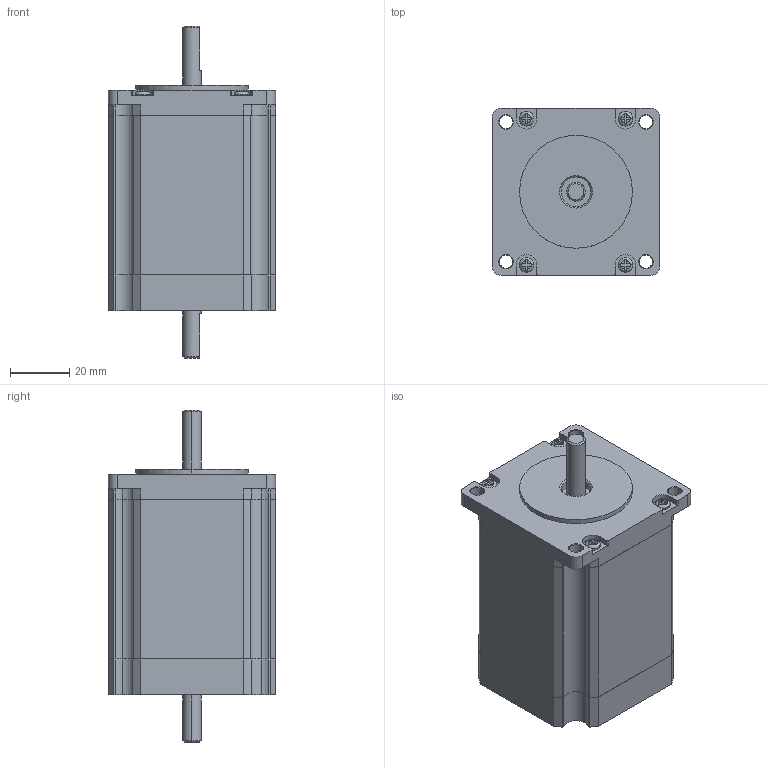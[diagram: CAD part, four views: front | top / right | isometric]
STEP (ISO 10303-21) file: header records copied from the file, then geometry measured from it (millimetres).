
FILE_DESCRIPTION (( 'STEP AP214' ), '1' );
FILE_NAME ('TS3653N13.STEP', '2011-09-15T08:53:17', ( '' ), ( '' ), 'SwSTEP 2.0', 'SolidWorks 2010', '' );
FILE_SCHEMA (( 'AUTOMOTIVE_DESIGN' ));
Length unit declared in the file: millimetre
Products named in the file (1): TS3653N13
Bounding box: 56.4 x 56.4 x 112 mm (x, y, z)
Volume: 216423.2 mm3; surface area: 23926.4 mm2
Topology: 1 solids, 1 shells, 252 faces, 684 edges, 445 vertices
Faces by surface type: plane 141, cylinder 80, cone 23, torus 8
Entity records: 8375 total; most frequent: CARTESIAN_POINT 1554, DIRECTION 1369, ORIENTED_EDGE 1368, EDGE_CURVE 684, AXIS2_PLACEMENT_3D 468, VERTEX_POINT 445, LINE 433, VECTOR 433
